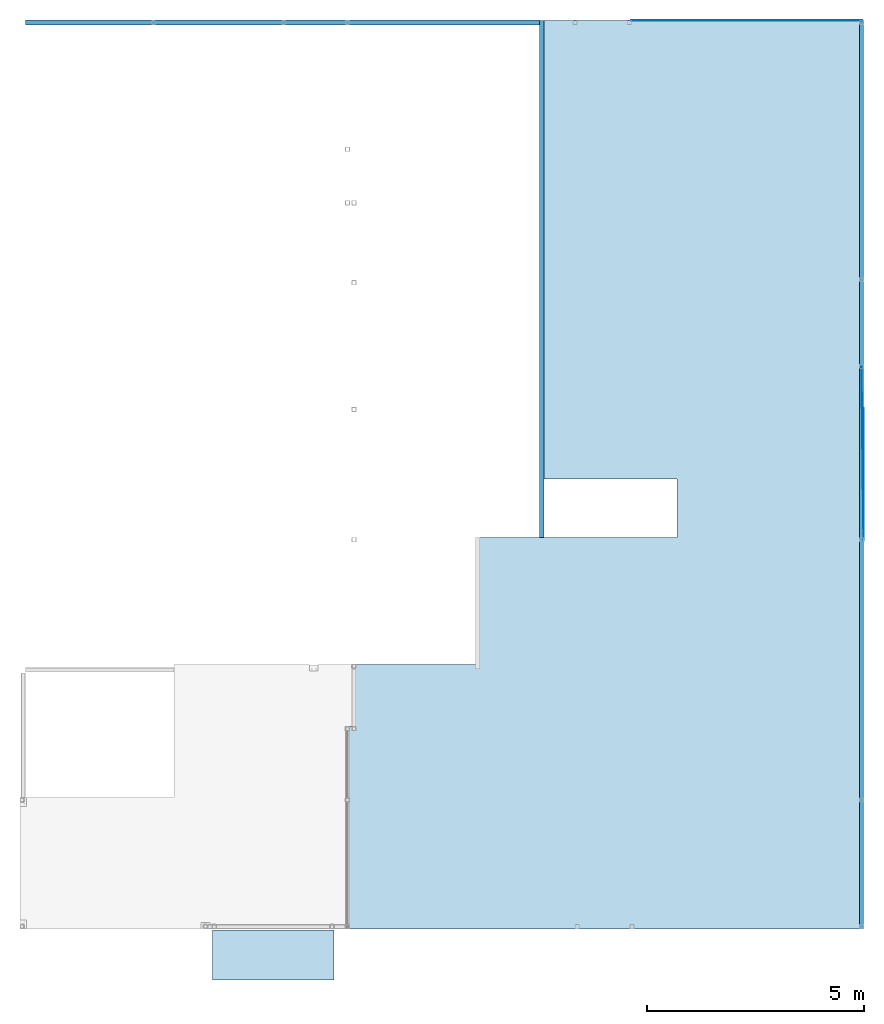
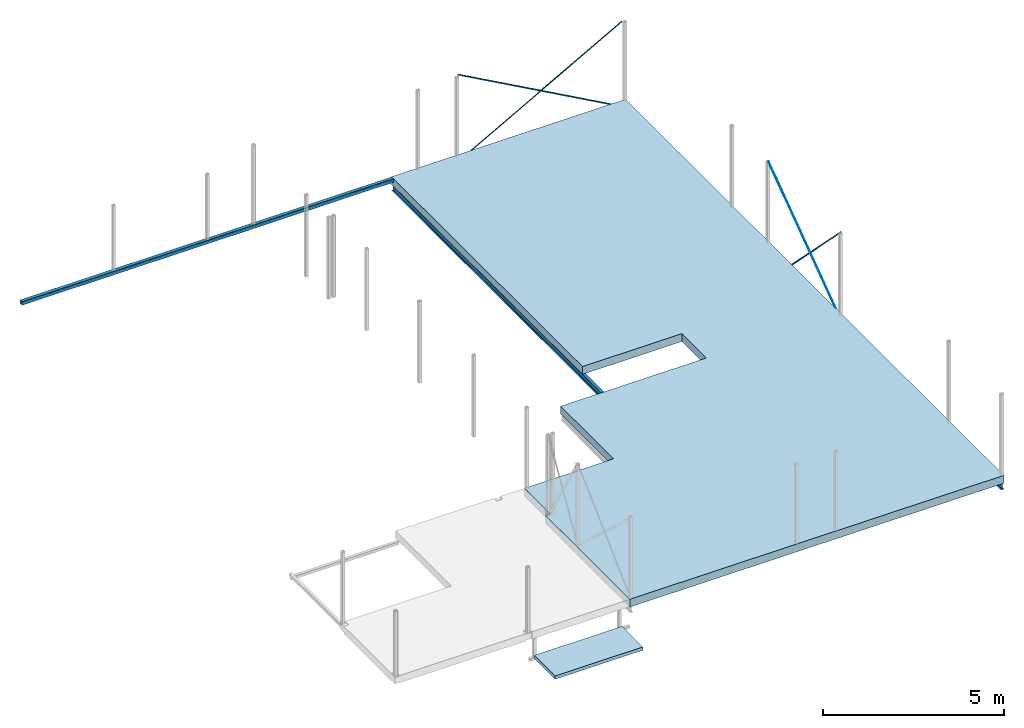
# One storey, part 6 of 7: 7 beams, 2 slabs.
"""IFC2X3 building model written with IfcOpenShell, lengths in millimetres."""

from ifc_helpers import new_model, entity, si_unit, converted_unit, derived_unit, direction, frame, frame_2d, origin, origin_2d_with_axis, place, context, subcontext, project, spatial, polyline, circle_curve, parameter, trimmed, segment, composite_curve, rectangle, i_section, outline, extrude, material, layer, layer_set, layer_usage, type_object, element, save


model = new_model("IFC2X3")

# Units and contexts
model_context = context("Model", 3, precision=0.01, world=origin(), true_north=direction((6.12303176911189e-17, 1.0)))
body_context = subcontext(model_context, "Body", "Model", "MODEL_VIEW")
ifc_project = project(units=[si_unit("LENGTHUNIT", "METRE", prefix="MILLI"), si_unit("AREAUNIT", "SQUARE_METRE"), si_unit("VOLUMEUNIT", "CUBIC_METRE"), converted_unit("PLANEANGLEUNIT", "DEGREE", entity("IfcRatioMeasure", 0.0174532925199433), si_unit("PLANEANGLEUNIT", "RADIAN"), dimensions=[0, 0, 0, 0, 0, 0, 0]), si_unit("MASSUNIT", "GRAM", prefix="KILO"), derived_unit("MASSDENSITYUNIT", [(si_unit("MASSUNIT", "GRAM", prefix="KILO"), 1), (si_unit("LENGTHUNIT", "METRE"), -3)]), si_unit("TIMEUNIT", "SECOND"), si_unit("FREQUENCYUNIT", "HERTZ"), si_unit("THERMODYNAMICTEMPERATUREUNIT", "DEGREE_CELSIUS"), derived_unit("THERMALTRANSMITTANCEUNIT", [(si_unit("MASSUNIT", "GRAM", prefix="KILO"), 1), (si_unit("THERMODYNAMICTEMPERATUREUNIT", "KELVIN"), -1), (si_unit("TIMEUNIT", "SECOND"), -3)]), derived_unit("VOLUMETRICFLOWRATEUNIT", [(si_unit("LENGTHUNIT", "METRE"), 3), (si_unit("TIMEUNIT", "SECOND"), -1)]), si_unit("ELECTRICCURRENTUNIT", "AMPERE"), si_unit("ELECTRICVOLTAGEUNIT", "VOLT"), si_unit("POWERUNIT", "WATT"), si_unit("FORCEUNIT", "NEWTON", prefix="KILO"), si_unit("ILLUMINANCEUNIT", "LUX"), si_unit("LUMINOUSFLUXUNIT", "LUMEN"), si_unit("LUMINOUSINTENSITYUNIT", "CANDELA"), derived_unit("USERDEFINED", [(si_unit("MASSUNIT", "GRAM", prefix="KILO"), -1), (si_unit("LENGTHUNIT", "METRE"), -2), (si_unit("TIMEUNIT", "SECOND"), 3), (si_unit("LUMINOUSFLUXUNIT", "LUMEN"), 1)]), derived_unit("LINEARVELOCITYUNIT", [(si_unit("LENGTHUNIT", "METRE"), 1), (si_unit("TIMEUNIT", "SECOND"), -1)]), si_unit("PRESSUREUNIT", "PASCAL"), derived_unit("USERDEFINED", [(si_unit("LENGTHUNIT", "METRE"), -2), (si_unit("MASSUNIT", "GRAM", prefix="KILO"), 1), (si_unit("TIMEUNIT", "SECOND"), -2)])], contexts=[model_context])

# Site, building, storey
site_placement = place(None, frame((0.0, 0.0, 101000.0)))
site = spatial("IfcSite", under=ifc_project, at=site_placement, Name="Default", CompositionType="ELEMENT")
building_placement = place(site_placement, origin())
building = spatial("IfcBuilding", under=site, at=building_placement, CompositionType="ELEMENT")
storey_placement = place(building_placement, frame((0.0, 0.0, 3150.0)))
storey = spatial("IfcBuildingStorey", under=building, at=storey_placement, Name="02", CompositionType="ELEMENT", Elevation=3149.9999999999)

# Beams
ifc_material_1 = material(Name="Stål - S355")
beam_type_1 = type_object("IfcBeamType", Name="Bjelke IPE:IPE 200", PredefinedType="BEAM")
beam_1_placement = place(storey_placement, frame((23111.2644969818, 23496.0197093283, -465.0), z_axis=(0.0, 0.0, 1.0), x_axis=(0.0, 1.0, 0.0)))
element("IfcBeam", 1, at=beam_1_placement, inside=storey, type_object=beam_type_1, material=ifc_material_1, Name="Bjelke IPE:IPE 200", ObjectType="Bjelke IPE:IPE 200", context=body_context, shape_type="SweptSolid", body=[
    extrude(i_section(OverallWidth=99.9999999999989, OverallDepth=200.0, WebThickness=5.59999999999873, FlangeThickness=8.50000000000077, FilletRadius=12.000000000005, at=frame_2d((5.47117906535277e-13, 6.49791331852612e-12), x_axis=(0.0, 1.0))), frame((-47.9752237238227, 0.0, 100.0), z_axis=(1.0, 0.0, 0.0), x_axis=(0.0, 0.0, -1.0)), (0.0, 0.0, 1.0), 20939.9062673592),
])
beam_2_placement = place(storey_placement, frame((15742.4253486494, 32370.5450559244, 0.0), z_axis=(0.0, 0.0, 1.0), x_axis=(0.0, 1.0, 0.0)))
element("IfcBeam", 2, at=beam_2_placement, inside=storey, type_object=beam_type_1, material=ifc_material_1, Name="Bjelke IPE:IPE 200", ObjectType="Bjelke IPE:IPE 200", context=body_context, shape_type="SweptSolid", body=[
    extrude(i_section(OverallWidth=100.000000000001, OverallDepth=200.0, WebThickness=5.60000000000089, FlangeThickness=8.50000000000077, FilletRadius=11.9999999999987, at=frame_2d((5.47117906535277e-13, 3.25073301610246e-12), x_axis=(0.0, 1.0))), frame((95.3877933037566, 0.0, -365.0), z_axis=(1.0, 0.0, 0.0), x_axis=(0.0, 0.0, -1.0)), (0.0, 0.0, 1.0), 11922.0179037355),
])
ifc_material_2 = material(Name="S355")
beam_type_2 = type_object("IfcBeamType", Name="Bjelke HUP:HUP 120x120x5", PredefinedType="BEAM")
beam_3_placement = place(storey_placement, frame((3786.26449698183, 44337.9507529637, -130.0)))
element("IfcBeam", 3, at=beam_3_placement, inside=storey, type_object=beam_type_2, material=ifc_material_2, Name="Bjelke HUP:HUP 120x120x5", ObjectType="Bjelke HUP:HUP 120x120x5", context=body_context, shape_type="SweptSolid", body=[
    extrude(outline(composite_curve([segment(trimmed(circle_curve(frame_2d((-50.0, -50.0), x_axis=(1.0, 0.0)), 10.0), [parameter(180.0)], [parameter(269.999999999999)], True, "PARAMETER"), True, "CONTINUOUS"), segment(polyline([(-50.0, -60.0), (50.0, -60.0)]), True, "CONTINUOUS"), segment(trimmed(circle_curve(frame_2d((50.0, -50.0), x_axis=(1.0, 0.0)), 10.0), [parameter(270.0)], [parameter(5.08888749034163e-14)], True, "PARAMETER"), True, "CONTINUOUS"), segment(polyline([(60.0, -50.0), (60.0, 50.0)]), True, "CONTINUOUS"), segment(trimmed(circle_curve(frame_2d((50.0, 50.0), x_axis=(1.0, 0.0)), 10.0), [parameter(360.0)], [parameter(89.9999999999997)], True, "PARAMETER"), True, "CONTINUOUS"), segment(polyline([(50.0, 60.0), (-50.0, 60.0)]), True, "CONTINUOUS"), segment(trimmed(circle_curve(frame_2d((-50.0, 50.0), x_axis=(1.0, 0.0)), 10.0), [parameter(90.0000000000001)], [parameter(180.0)], True, "PARAMETER"), True, "CONTINUOUS"), segment(polyline([(-60.0, 50.0), (-60.0, -50.0)]), True, "CONTINUOUS")], self_intersect=False), holes=[composite_curve([segment(polyline([(50.0, -55.0), (-50.0, -55.0)]), True, "CONTINUOUS"), segment(trimmed(circle_curve(frame_2d((-50.0, -50.0), x_axis=(1.0, 0.0)), 5.0), [parameter(180.0)], [parameter(270.0)], True, "PARAMETER"), False, "CONTINUOUS"), segment(polyline([(-55.0, -50.0), (-55.0, 50.0)]), True, "CONTINUOUS"), segment(trimmed(circle_curve(frame_2d((-50.0, 50.0), x_axis=(1.0, 0.0)), 5.0), [parameter(90.0000000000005)], [parameter(180.0)], True, "PARAMETER"), False, "CONTINUOUS"), segment(polyline([(-50.0, 55.0), (50.0, 55.0)]), True, "CONTINUOUS"), segment(trimmed(circle_curve(frame_2d((50.0, 50.0), x_axis=(1.0, 0.0)), 5.0), [parameter(0.0)], [parameter(90.0000000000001)], True, "PARAMETER"), False, "CONTINUOUS"), segment(polyline([(55.0, 50.0), (55.0, -50.0)]), True, "CONTINUOUS"), segment(trimmed(circle_curve(frame_2d((50.0, -50.0), x_axis=(1.0, 0.0)), 5.0), [parameter(270.0)], [parameter(3.05333249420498e-13)], True, "PARAMETER"), False, "CONTINUOUS")], self_intersect=False)]), frame((50.0, 0.0, 60.0), z_axis=(1.0, 0.0, 0.0), x_axis=(0.0, -1.0, 0.0)), (0.0, 0.0, 1.0), 11856.1608516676),
])
ifc_material_3 = material(Name="Structural Framing Fireproofing")
beam_type_3 = type_object("IfcBeamType", Name="Bjelke Stålplate:40x5 mm", PredefinedType="BEAM")
beam_4_placement = place(storey_placement, frame((23111.2644969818, 44387.9507529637, 2675.0), z_axis=(-0.485500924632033, 0.0, 0.874236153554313), x_axis=(-0.874236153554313, 0.0, -0.485500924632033)))
element("IfcBeam", 4, at=beam_4_placement, inside=storey, type_object=beam_type_3, material=ifc_material_3, Name="Bjelke Stålplate:40x5 mm", ObjectType="Bjelke Stålplate:40x5 mm", context=body_context, shape_type="SweptSolid", body=[
    extrude(rectangle(XDim=40.0000000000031, YDim=5.00000000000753, at=origin_2d_with_axis()), frame((50.9011464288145, 0.0, 20.0), z_axis=(1.0, 0.0, 0.0), x_axis=(0.0, 0.0, -1.0)), (0.0, 0.0, 1.0), 5992.00009044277),
])
beam_5_placement = place(storey_placement, frame((23111.2644969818, 44387.9507529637, -265.0), z_axis=(0.485500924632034, 0.0, 0.874236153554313), x_axis=(-0.874236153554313, 0.0, 0.485500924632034)))
element("IfcBeam", 5, at=beam_5_placement, inside=storey, type_object=beam_type_3, material=ifc_material_3, Name="Bjelke Stålplate:40x5 mm", ObjectType="Bjelke Stålplate:40x5 mm", context=body_context, shape_type="SweptSolid", body=[
    extrude(rectangle(XDim=40.0000000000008, YDim=5.00000000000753, at=frame_2d((2.36255459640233e-13, 4.33142410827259e-12), x_axis=(1.0, 0.0))), frame((0.0, 0.0, 20.0), z_axis=(1.0, 0.0, 0.0), x_axis=(0.0, 0.0, -1.0)), (0.0, 0.0, 1.0), 6069.08221377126),
])
beam_6_placement = place(storey_placement, frame((23161.2644969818, 32417.9507529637, -265.0), z_axis=(0.00755468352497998, -0.604374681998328, 0.796664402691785), x_axis=(-0.00995752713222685, 0.796602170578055, 0.604421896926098)))
element("IfcBeam", 6, at=beam_6_placement, inside=storey, type_object=beam_type_3, material=ifc_material_3, Name="Bjelke Stålplate:40x5 mm", ObjectType="Bjelke Stålplate:40x5 mm", context=body_context, shape_type="SweptSolid", body=[
    extrude(rectangle(XDim=40.0000000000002, YDim=5.00000000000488, at=frame_2d((2.32702745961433e-13, 2.16560103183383e-12), x_axis=(1.0, 0.0))), frame((0.0, 0.0, 20.0), z_axis=(1.0, 0.0, 0.0), x_axis=(0.0, 0.0, -1.0)), (0.0, 0.0, 1.0), 4999.05544904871),
])
beam_7_placement = place(storey_placement, frame((23161.2644969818, 35417.9507529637, -265.0), z_axis=(1.0, 0.0, 0.0), x_axis=(0.0, -0.70299409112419, 0.711195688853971)))
element("IfcBeam", 7, at=beam_7_placement, inside=storey, type_object=beam_type_3, material=ifc_material_3, Name="Bjelke Stålplate:40x5 mm", ObjectType="Bjelke Stålplate:40x5 mm", context=body_context, shape_type="SweptSolid", body=[
    extrude(rectangle(XDim=40.0000000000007, YDim=5.00000000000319, at=frame_2d((2.16582307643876e-12, 2.49045228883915e-12), x_axis=(0.0, 1.0))), frame((0.0, -20.0, 0.0), z_axis=(1.0, 0.0, 0.0), x_axis=(0.0, 0.0, -1.0)), (0.0, 0.0, 1.0), 4227.17836014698),
])

# Slabs
ifc_material_4 = material(Name="HD1200mm")
ifc_layer_1 = layer(ifc_material_4, 265.0)
ifc_layer_set_1 = layer_set([ifc_layer_1], Name="Floor:HD-265")
ifc_layer_usage_1 = layer_usage(ifc_layer_set_1, "AXIS3", "POSITIVE", 0.0)
slab_1_placement = place(storey_placement, origin())
element("IfcSlab", 8, at=slab_1_placement, inside=storey, material=ifc_layer_usage_1, Name="Floor:HD-265", ObjectType="Floor:HD-265", PredefinedType="FLOOR", context=body_context, shape_type="SweptSolid", body=[
    extrude(outline(polyline([(-8513.46893768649, -4538.33276669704), (-3852.98605481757, -4538.33276669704), (-3852.98605481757, -4388.33276669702), (-2421.12026810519, -4388.33276669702), (-2421.12026810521, -1539.49701818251), (504.513135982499, -1539.49701818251), (504.513135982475, 3111.66723330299), (1856.53106231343, 3111.667233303), (1856.53106231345, -57.1719150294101), (12426.5310623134, -57.1719150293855), (12426.5310623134, 7411.66723330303), (-8513.46893768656, 7411.66723330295), (-8513.46893768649, -4538.33276669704)])), frame((15749.5972636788, 31961.4196906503, 0.0), z_axis=(0.0, 0.0, -1.0), x_axis=(0.0, 1.0, 0.0)), (0.0, 0.0, 1.0), 265.0),
])
ifc_material_5 = material(Name="Structural Steel - S235")
ifc_layer_2 = layer(ifc_material_5, 111.5)
ifc_layer_set_2 = layer_set([ifc_layer_2], Name="Floor:PLANNJA 111.5")
ifc_layer_usage_2 = layer_usage(ifc_layer_set_2, "AXIS3", "POSITIVE", 0.0)
slab_2_placement = place(storey_placement, origin())
element("IfcSlab", 9, at=slab_2_placement, inside=storey, material=ifc_layer_usage_2, Name="Floor:PLANNJA 111.5", ObjectType="Floor:PLANNJA 111.5", PredefinedType="FLOOR", context=body_context, shape_type="SweptSolid", body=[
    extrude(rectangle(XDim=1149.99999999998, YDim=2800.0, at=frame_2d((0.0, -5.6843418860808e-13), x_axis=(1.0, 0.0))), frame((9546.31887653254, 22842.9507529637, -800.0), z_axis=(0.0, 0.0, -1.0), x_axis=(0.0, 1.0, 0.0)), (0.0, 0.0, 1.0), 111.5),
])

save(model, "model.ifc")
